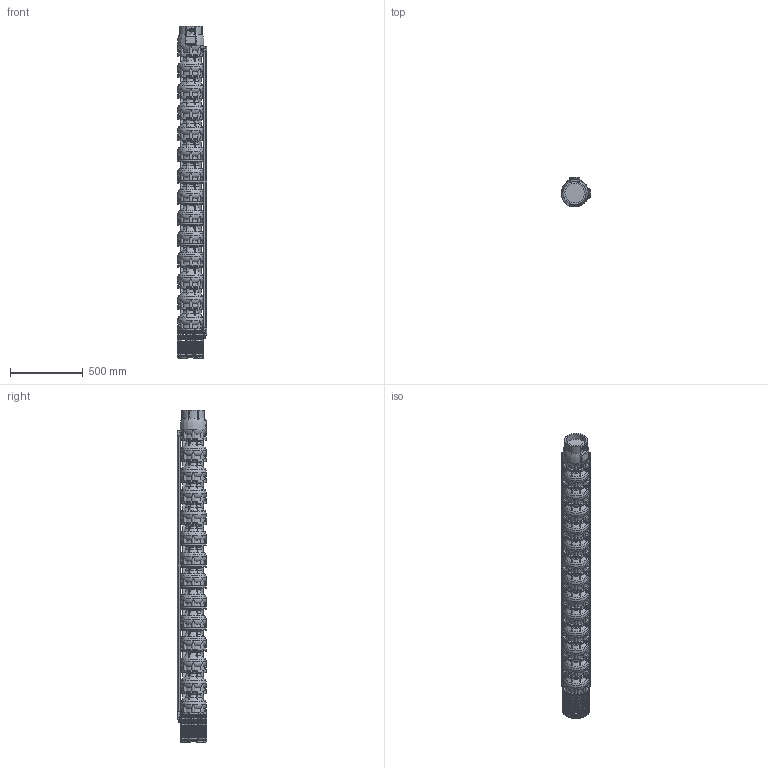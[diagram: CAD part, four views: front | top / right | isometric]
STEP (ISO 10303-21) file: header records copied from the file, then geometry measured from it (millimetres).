
FILE_DESCRIPTION(/* description */ ('Unknown'),/* implementation_level */ '2;1');
FILE_NAME(/* name */ 'VSI134-13_WR_M8-50_SLE',/* time_stamp */ '2023-09-14T14:59:48+02:00',/* author */ ('Unknown'),/* organization */ ('Unknown'),/* preprocessor_version */ 'ST-DEVELOPER v18.102',/* originating_system */ 'Solid Edge',/* authorisation */ 'Unknown');
FILE_SCHEMA (('AUTOMOTIVE_DESIGN {1 0 10303 214 3 1 1}'));
Products named in the file (11): VSI134-13_WR_M8-50_SLE; VSI134_testata; VSI134_diffusore; VSI134_supporto_8×8; VSI134_filtro_A; VSI134_filtro_B; VSI134_terminale_top_copricavo_basso; VSI134_terminale_bottom_copricavo_basso; LOW 134-13; M5X8_UNI7687; VSI134_giunto_8×8
Assembly tree (36 placements, depth 2):
  VSI134-13_WR_M8-50_SLE
    VSI134_testata
    VSI134_diffusore  x13
    VSI134_supporto_8×8
    VSI134_filtro_A
    VSI134_filtro_B
    VSI134_terminale_top_copricavo_basso  x2
    VSI134_terminale_bottom_copricavo_basso  x2
    LOW 134-13  x2
    M5X8_UNI7687  x12
    VSI134_giunto_8×8
Bounding box: 201.57 x 202.09 x 2282 mm (x, y, z)
Volume: 41983001.1 mm3; surface area: 3484196.1 mm2
Topology: 75 solids, 77 shells, 4777 faces, 13477 edges, 8995 vertices
Faces by surface type: plane 3417, cylinder 632, torus 615, cone 68, bspline 31, sphere 14
Full cylindrical faces by diameter (mm): 2.4 x2, 3 x2, 4.2 x16, 5 x12, 5.5 x8, 26 x1, 44 x1, 69 x1, 74 x1, 98 x1, 135.472 x1, 157 x1, 182 x14
Entity records: 85601 total; most frequent: CARTESIAN_POINT 18369, ORIENTED_EDGE 14056, DIRECTION 13502, EDGE_CURVE 7028, VERTEX_POINT 4730, AXIS2_PLACEMENT_3D 4602, LINE 4298, VECTOR 4298
